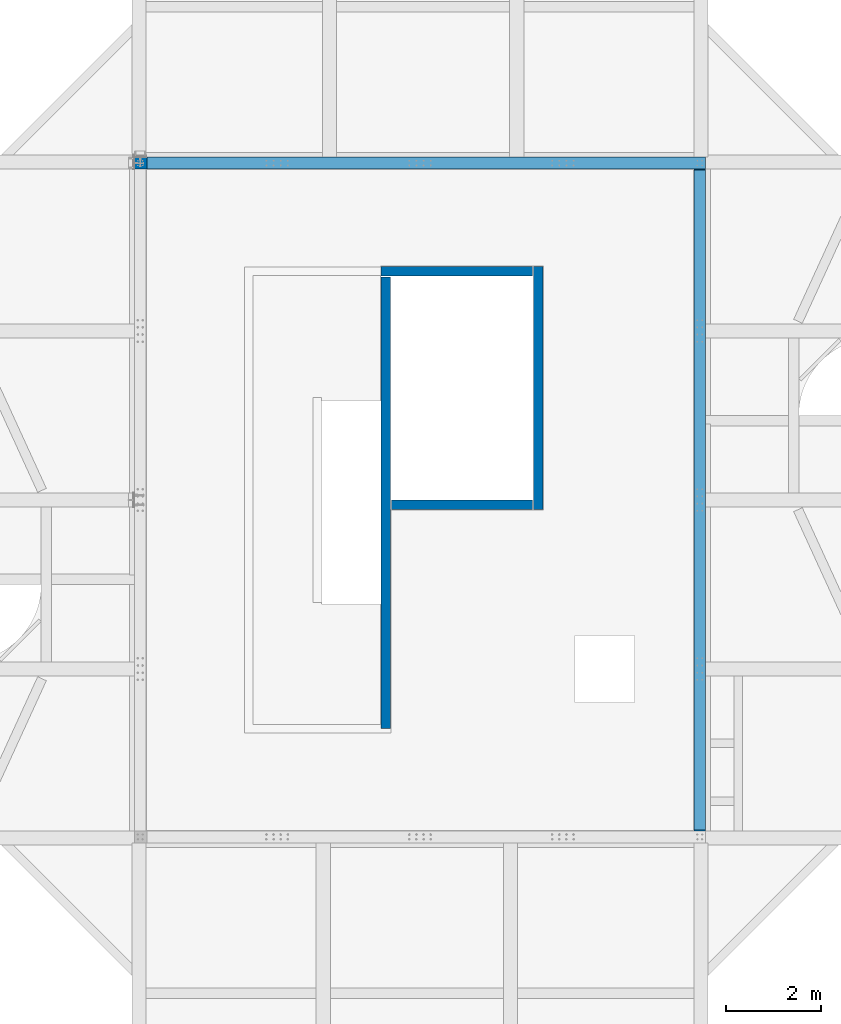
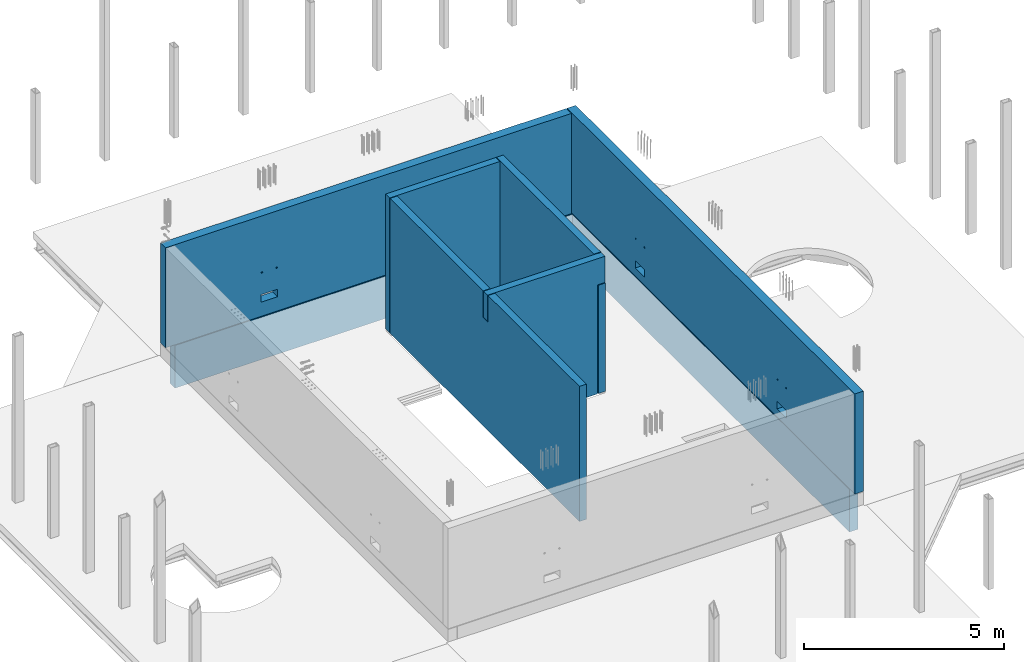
# One storey, part 11 of 16: 8 walls, 16 openings.
"""IFC2X3 building model written with IfcOpenShell, lengths in millimetres."""

from ifc_helpers import new_model, entity, si_unit, converted_unit, derived_unit, direction, frame, frame_2d, origin, origin_2d_with_axis, place, context, subcontext, project, spatial, rectangle, circle, extrude, material, layer, layer_set, layer_usage, type_object, element, save


model = new_model("IFC2X3")

# Units and contexts
model_context = context("Model", 3, precision=0.01, world=origin(), true_north=direction((6.12303176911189e-17, 1.0)))
body_context = subcontext(model_context, "Body", "Model", "MODEL_VIEW")
ifc_project = project(units=[si_unit("LENGTHUNIT", "METRE", prefix="MILLI"), si_unit("AREAUNIT", "SQUARE_METRE"), si_unit("VOLUMEUNIT", "CUBIC_METRE"), converted_unit("PLANEANGLEUNIT", "DEGREE", entity("IfcRatioMeasure", 0.0174532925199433), si_unit("PLANEANGLEUNIT", "RADIAN"), dimensions=[0, 0, 0, 0, 0, 0, 0]), si_unit("MASSUNIT", "GRAM", prefix="KILO"), derived_unit("MASSDENSITYUNIT", [(si_unit("MASSUNIT", "GRAM", prefix="KILO"), 1), (si_unit("LENGTHUNIT", "METRE"), -3)]), si_unit("TIMEUNIT", "SECOND"), si_unit("FREQUENCYUNIT", "HERTZ"), si_unit("THERMODYNAMICTEMPERATUREUNIT", "DEGREE_CELSIUS"), derived_unit("THERMALTRANSMITTANCEUNIT", [(si_unit("MASSUNIT", "GRAM", prefix="KILO"), 1), (si_unit("THERMODYNAMICTEMPERATUREUNIT", "KELVIN"), -1), (si_unit("TIMEUNIT", "SECOND"), -3)]), derived_unit("VOLUMETRICFLOWRATEUNIT", [(si_unit("LENGTHUNIT", "METRE"), 3), (si_unit("TIMEUNIT", "SECOND"), -1)]), si_unit("ELECTRICCURRENTUNIT", "AMPERE"), si_unit("ELECTRICVOLTAGEUNIT", "VOLT"), si_unit("POWERUNIT", "WATT"), si_unit("FORCEUNIT", "NEWTON", prefix="KILO"), si_unit("ILLUMINANCEUNIT", "LUX"), si_unit("LUMINOUSFLUXUNIT", "LUMEN"), si_unit("LUMINOUSINTENSITYUNIT", "CANDELA"), derived_unit("USERDEFINED", [(si_unit("MASSUNIT", "GRAM", prefix="KILO"), -1), (si_unit("LENGTHUNIT", "METRE"), -2), (si_unit("TIMEUNIT", "SECOND"), 3), (si_unit("LUMINOUSFLUXUNIT", "LUMEN"), 1)]), derived_unit("LINEARVELOCITYUNIT", [(si_unit("LENGTHUNIT", "METRE"), 1), (si_unit("TIMEUNIT", "SECOND"), -1)]), si_unit("PRESSUREUNIT", "PASCAL"), derived_unit("USERDEFINED", [(si_unit("LENGTHUNIT", "METRE"), -2), (si_unit("MASSUNIT", "GRAM", prefix="KILO"), 1), (si_unit("TIMEUNIT", "SECOND"), -2)])], contexts=[model_context])

# Site, building, storey
site_placement = place(None, origin())
site = spatial("IfcSite", under=ifc_project, at=site_placement, Name="Default", CompositionType="ELEMENT")
building_placement = place(site_placement, origin())
building = spatial("IfcBuilding", under=site, at=building_placement, Name="niet gebruiken", CompositionType="ELEMENT")
storey_placement = place(building_placement, frame((0.0, 0.0, 183150.0)))
storey = spatial("IfcBuildingStorey", under=building, at=storey_placement, Name="58 achtenvijftigste verdieping", CompositionType="ELEMENT", Elevation=183150.0)

# Wall, opening
ifc_material = material(Name="NLRS_f2_beton prefab")
ifc_layer_1 = layer(ifc_material, 200.0)
ifc_layer_set_1 = layer_set([ifc_layer_1], Name="Basic Wall:NLRS_22.21_WA_beton prefab d=200_gen")
ifc_layer_usage_1 = layer_usage(ifc_layer_set_1, "AXIS2", "NEGATIVE", 100.0)
wall_type_1 = type_object("IfcWallType", Name="Basic Wall:NLRS_22.21_WA_beton prefab d=200_gen", PredefinedType="STANDARD", material=ifc_layer_set_1)
wall_1_placement = place(storey_placement, frame((144230.0, 22400.0, 40.0), z_axis=(0.0, 0.0, 1.0), x_axis=(0.0, -1.0, 0.0)))
wall_1 = element("IfcWallStandardCase", 1, at=wall_1_placement, inside=storey, type_object=wall_type_1, material=ifc_layer_usage_1, Name="Basic Wall:NLRS_22.21_WA_beton prefab d=200_gen", ObjectType="Basic Wall:NLRS_22.21_WA_beton prefab d=200_gen", context=body_context, shape_type="SweptSolid", body=[
    extrude(rectangle(XDim=5100.0, YDim=199.999999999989, at=frame_2d((2550.0, 3.96482846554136e-12), x_axis=(-1.0, 0.0))), origin(), (0.0, 0.0, 1.0), 4130.0),
])
opening_1_placement = place(wall_1_placement, origin())
element("IfcOpeningElement", 2, at=opening_1_placement, cuts=wall_1, Name="Basic Wall:NLRS_22.21_WA_beton prefab d=200_gen", ObjectType="Opening", context=body_context, shape_type="SweptSolid", body=[
    extrude(rectangle(XDim=819.999999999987, YDim=220.000000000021, at=frame_2d((1.73372427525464e-11, 1.08002495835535e-12), x_axis=(1.0, 0.0))), frame((4990.0, -100.0, 3720.0), z_axis=(0.0, 1.0, 0.0), x_axis=(0.0, 0.0, -1.0)), (0.0, 0.0, 1.0), 199.999999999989),
])

ifc_layer_usage_2 = layer_usage(ifc_layer_set_1, "AXIS2", "NEGATIVE", 100.0)
wall_2_placement = place(storey_placement, frame((141030.0, 22180.0, 40.0), z_axis=(0.0, 0.0, 1.0), x_axis=(0.0, -1.0, 0.0)))
wall_2 = element("IfcWallStandardCase", 3, at=wall_2_placement, inside=storey, type_object=wall_type_1, material=ifc_layer_usage_2, Name="Basic Wall:NLRS_22.21_WA_beton prefab d=200_gen", ObjectType="Basic Wall:NLRS_22.21_WA_beton prefab d=200_gen", context=body_context, shape_type="SweptSolid", body=[
    extrude(rectangle(XDim=9479.99999999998, YDim=199.999999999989, at=frame_2d((4739.99999999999, 7.8159700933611e-14), x_axis=(-1.0, 0.0))), origin(), (0.0, 0.0, 1.0), 4130.0),
])
opening_2_placement = place(wall_2_placement, origin())
element("IfcOpeningElement", 4, at=opening_2_placement, cuts=wall_2, Name="Basic Wall:NLRS_22.21_WA_beton prefab d=200_gen", ObjectType="Opening", context=body_context, shape_type="SweptSolid", body=[
    extrude(rectangle(XDim=819.999999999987, YDim=240.0, at=frame_2d((1.73372427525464e-11, -1.08713038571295e-12), x_axis=(1.0, 0.0))), frame((4780.0, -100.0, 3720.0), z_axis=(0.0, 1.0, 0.0), x_axis=(0.0, 0.0, -1.0)), (0.0, 0.0, 1.0), 199.999999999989),
])

# Wall
ifc_layer_usage_3 = layer_usage(ifc_layer_set_1, "AXIS2", "NEGATIVE", 100.0)
wall_3_placement = place(storey_placement, frame((140930.0, 22300.0, 40.0)))
element("IfcWallStandardCase", 5, at=wall_3_placement, inside=storey, type_object=wall_type_1, material=ifc_layer_usage_3, Name="Basic Wall:NLRS_22.21_WA_beton prefab d=200_gen", ObjectType="Basic Wall:NLRS_22.21_WA_beton prefab d=200_gen", context=body_context, shape_type="SweptSolid", body=[
    extrude(rectangle(XDim=3180.0, YDim=199.999999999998, at=frame_2d((1590.0, -1.01607611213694e-12), x_axis=(-1.0, 0.0))), origin(), (0.0, 0.0, 1.0), 4130.0),
])

# Wall, openings
ifc_layer_usage_4 = layer_usage(ifc_layer_set_1, "AXIS2", "NEGATIVE", 100.0)
wall_4_placement = place(storey_placement, frame((140930.0, 17400.0, 40.0)))
wall_4 = element("IfcWallStandardCase", 6, at=wall_4_placement, inside=storey, type_object=wall_type_1, material=ifc_layer_usage_4, Name="Basic Wall:NLRS_22.21_WA_beton prefab d=200_gen", ObjectType="Basic Wall:NLRS_22.21_WA_beton prefab d=200_gen", context=body_context, shape_type="SweptSolid", body=[
    extrude(rectangle(XDim=3390.00000000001, YDim=199.999999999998, at=frame_2d((1695.0, 4.33431068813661e-13), x_axis=(-1.0, 0.0))), origin(), (0.0, 0.0, 1.0), 4129.99999999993),
])
opening_3_placement = place(wall_4_placement, origin())
element("IfcOpeningElement", 7, at=opening_3_placement, cuts=wall_4, Name="Basic Wall:NLRS_22.21_WA_beton prefab d=200_gen", ObjectType="Opening", context=body_context, shape_type="SweptSolid", body=[
    extrude(rectangle(XDim=3329.99999999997, YDim=220.000000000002, at=frame_2d((0.0, 8.66862137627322e-12), x_axis=(1.0, 0.0))), frame((110.0, -100.0, 1665.0), z_axis=(0.0, 1.0, 0.0), x_axis=(0.0, 0.0, -1.0)), (0.0, 0.0, 1.0), 200.000000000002),
])
opening_4_placement = place(wall_4_placement, origin())
element("IfcOpeningElement", 8, at=opening_4_placement, cuts=wall_4, Name="Basic Wall:NLRS_22.21_WA_beton prefab d=200_gen", ObjectType="Opening", context=body_context, shape_type="SweptSolid", body=[
    extrude(rectangle(XDim=3329.99999999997, YDim=209.999999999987, at=origin_2d_with_axis()), frame((3285.0, -100.0, 1665.0), z_axis=(0.0, 1.0, 0.0), x_axis=(0.0, 0.0, -1.0)), (0.0, 0.0, 1.0), 199.999999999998),
])

ifc_layer_2 = layer(ifc_material, 250.0)
ifc_layer_set_2 = layer_set([ifc_layer_2], Name="Basic Wall:NLRS_22.21_WA_beton prefab d=250_gen")
ifc_layer_usage_5 = layer_usage(ifc_layer_set_2, "AXIS2", "NEGATIVE", 125.0)
wall_type_2 = type_object("IfcWallType", Name="Basic Wall:NLRS_22.21_WA_beton prefab d=250_gen", PredefinedType="STANDARD", material=ifc_layer_set_2)
wall_5_placement = place(storey_placement, frame((135750.0, 24575.0, 35.0)))
wall_5 = element("IfcWallStandardCase", 9, at=wall_5_placement, inside=storey, type_object=wall_type_2, material=ifc_layer_usage_5, Name="Basic Wall:NLRS_22.21_WA_beton prefab d=250_gen", ObjectType="Basic Wall:NLRS_22.21_WA_beton prefab d=250_gen", context=body_context, shape_type="SweptSolid", body=[
    extrude(rectangle(XDim=11729.9999999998, YDim=250.000000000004, at=frame_2d((5864.99999999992, 0.0), x_axis=(-1.0, 0.0))), origin(), (0.0, 0.0, 1.0), 3059.99999999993),
])
opening_5_placement = place(wall_5_placement, origin())
element("IfcOpeningElement", 10, at=opening_5_placement, cuts=wall_5, Name="Basic Wall:NLRS_22.21_WA_beton prefab d=250_gen", ObjectType="Opening", context=body_context, shape_type="SweptSolid", body=[
    extrude(rectangle(XDim=230.000000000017, YDim=469.999999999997, at=frame_2d((1.73230318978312e-11, 0.0), x_axis=(1.0, 0.0))), frame((9000.03407201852, -125.0, 545.0), z_axis=(0.0, 1.0, 0.0), x_axis=(0.0, 0.0, -1.0)), (0.0, 0.0, 1.0), 249.999999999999),
])
opening_6_placement = place(wall_5_placement, origin())
element("IfcOpeningElement", 11, at=opening_6_placement, cuts=wall_5, Name="Basic Wall:NLRS_22.21_WA_beton prefab d=250_gen", ObjectType="Opening", context=body_context, shape_type="SweptSolid", body=[
    extrude(rectangle(XDim=230.000000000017, YDim=469.999999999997, at=frame_2d((1.73230318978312e-11, 0.0), x_axis=(1.0, 0.0))), frame((3000.03407201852, -125.0, 545.0), z_axis=(0.0, 1.0, 0.0), x_axis=(0.0, 0.0, -1.0)), (0.0, 0.0, 1.0), 249.999999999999),
])
opening_7_placement = place(wall_5_placement, origin())
element("IfcOpeningElement", 12, at=opening_7_placement, cuts=wall_5, Name="Basic Wall:NLRS_22.21_WA_beton prefab d=250_gen", ObjectType="Opening", context=body_context, shape_type="SweptSolid", body=[
    extrude(circle(Radius=25.0, at=origin_2d_with_axis()), frame((2785.0352180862, -300.0, 1330.00694824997), z_axis=(-3.81500000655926e-06, 1.0, 0.0), x_axis=(1.0, 3.81500000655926e-06, 0.0)), (0.0, 0.0, 1.0), 600.000000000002),
])
opening_8_placement = place(wall_5_placement, origin())
element("IfcOpeningElement", 13, at=opening_8_placement, cuts=wall_5, Name="Basic Wall:NLRS_22.21_WA_beton prefab d=250_gen", ObjectType="Opening", context=body_context, shape_type="SweptSolid", body=[
    extrude(circle(Radius=25.0, at=origin_2d_with_axis()), frame((3215.03426433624, -300.0, 1330.00694824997), z_axis=(-3.81500000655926e-06, 1.0, 0.0), x_axis=(1.0, 3.81500000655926e-06, 0.0)), (0.0, 0.0, 1.0), 600.000000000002),
])
opening_9_placement = place(wall_5_placement, origin())
element("IfcOpeningElement", 14, at=opening_9_placement, cuts=wall_5, Name="Basic Wall:NLRS_22.21_WA_beton prefab d=250_gen", ObjectType="Opening", context=body_context, shape_type="SweptSolid", body=[
    extrude(circle(Radius=25.0, at=origin_2d_with_axis()), frame((9215.03521808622, -300.0, 1330.00694824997), z_axis=(-3.81500000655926e-06, 1.0, 0.0), x_axis=(1.0, 3.81500000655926e-06, 0.0)), (0.0, 0.0, 1.0), 600.000000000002),
])
opening_10_placement = place(wall_5_placement, origin())
element("IfcOpeningElement", 15, at=opening_10_placement, cuts=wall_5, Name="Basic Wall:NLRS_22.21_WA_beton prefab d=250_gen", ObjectType="Opening", context=body_context, shape_type="SweptSolid", body=[
    extrude(circle(Radius=25.0, at=origin_2d_with_axis()), frame((8785.03521808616, -300.0, 1330.00694824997), z_axis=(-3.81500000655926e-06, 1.0, 0.0), x_axis=(1.0, 3.81500000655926e-06, 0.0)), (0.0, 0.0, 1.0), 600.000000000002),
])

ifc_layer_usage_6 = layer_usage(ifc_layer_set_2, "AXIS2", "NEGATIVE", 125.0)
wall_6_placement = place(storey_placement, frame((147625.0, 24700.0, 35.0), z_axis=(0.0, 0.0, 1.0), x_axis=(0.0, -1.0, 0.0)))
wall_6 = element("IfcWallStandardCase", 16, at=wall_6_placement, inside=storey, type_object=wall_type_2, material=ifc_layer_usage_6, Name="Basic Wall:NLRS_22.21_WA_beton prefab d=250_gen", ObjectType="Basic Wall:NLRS_22.21_WA_beton prefab d=250_gen", context=body_context, shape_type="SweptSolid", body=[
    extrude(rectangle(XDim=14399.9999999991, YDim=250.000000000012, at=frame_2d((7199.99999999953, 3.12638803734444e-13), x_axis=(-1.0, 0.0))), origin(), (0.0, 0.0, 1.0), 3059.99999999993),
])
opening_11_placement = place(wall_6_placement, origin())
element("IfcOpeningElement", 17, at=opening_11_placement, cuts=wall_6, Name="Basic Wall:NLRS_22.21_WA_beton prefab d=250_gen", ObjectType="Opening", context=body_context, shape_type="SweptSolid", body=[
    extrude(rectangle(XDim=230.000000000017, YDim=470.000000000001, at=frame_2d((1.73230318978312e-11, 0.0), x_axis=(1.0, 0.0))), frame((3650.0000499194, -125.0, 365.0), z_axis=(0.0, 1.0, 0.0), x_axis=(0.0, 0.0, -1.0)), (0.0, 0.0, 1.0), 250.000000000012),
])
opening_12_placement = place(wall_6_placement, origin())
element("IfcOpeningElement", 18, at=opening_12_placement, cuts=wall_6, Name="Basic Wall:NLRS_22.21_WA_beton prefab d=250_gen", ObjectType="Opening", context=body_context, shape_type="SweptSolid", body=[
    extrude(rectangle(XDim=230.000000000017, YDim=470.000000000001, at=frame_2d((1.73230318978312e-11, 0.0), x_axis=(1.0, 0.0))), frame((10750.0000499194, -125.0, 365.0), z_axis=(0.0, 1.0, 0.0), x_axis=(0.0, 0.0, -1.0)), (0.0, 0.0, 1.0), 250.000000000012),
])
opening_13_placement = place(wall_6_placement, origin())
element("IfcOpeningElement", 19, at=opening_13_placement, cuts=wall_6, Name="Basic Wall:NLRS_22.21_WA_beton prefab d=250_gen", ObjectType="Opening", context=body_context, shape_type="SweptSolid", body=[
    extrude(circle(Radius=25.0, at=origin_2d_with_axis()), frame((3865.00233916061, -299.996757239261, 1149.99694824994), z_axis=(-3.81500000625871e-06, 1.0, 0.0), x_axis=(1.0, 3.81500000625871e-06, 0.0)), (0.0, 0.0, 1.0), 600.000000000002),
])
opening_14_placement = place(wall_6_placement, origin())
element("IfcOpeningElement", 20, at=opening_14_placement, cuts=wall_6, Name="Basic Wall:NLRS_22.21_WA_beton prefab d=250_gen", ObjectType="Opening", context=body_context, shape_type="SweptSolid", body=[
    extrude(circle(Radius=25.0, at=origin_2d_with_axis()), frame((3435.00329291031, -299.996757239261, 1149.99694824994), z_axis=(-3.81500000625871e-06, 1.0, 0.0), x_axis=(1.0, 3.81500000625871e-06, 0.0)), (0.0, 0.0, 1.0), 600.000000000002),
])
opening_15_placement = place(wall_6_placement, origin())
element("IfcOpeningElement", 21, at=opening_15_placement, cuts=wall_6, Name="Basic Wall:NLRS_22.21_WA_beton prefab d=250_gen", ObjectType="Opening", context=body_context, shape_type="SweptSolid", body=[
    extrude(circle(Radius=25.0, at=origin_2d_with_axis()), frame((10535.0032929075, -299.996757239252, 1149.99694824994), z_axis=(-3.81500000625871e-06, 1.0, 0.0), x_axis=(1.0, 3.81500000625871e-06, 0.0)), (0.0, 0.0, 1.0), 600.000000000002),
])
opening_16_placement = place(wall_6_placement, origin())
element("IfcOpeningElement", 22, at=opening_16_placement, cuts=wall_6, Name="Basic Wall:NLRS_22.21_WA_beton prefab d=250_gen", ObjectType="Opening", context=body_context, shape_type="SweptSolid", body=[
    extrude(circle(Radius=25.0, at=origin_2d_with_axis()), frame((10965.0032929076, -299.996757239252, 1149.99694824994), z_axis=(-3.81500000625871e-06, 1.0, 0.0), x_axis=(1.0, 3.81500000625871e-06, 0.0)), (0.0, 0.0, 1.0), 600.000000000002),
])

# Walls
ifc_layer_usage_7 = layer_usage(ifc_layer_set_2, "AXIS2", "NEGATIVE", 125.0)
wall_7_placement = place(storey_placement, frame((136020.0, 24575.0, -1290.0)))
element("IfcWallStandardCase", 23, at=wall_7_placement, inside=storey, type_object=wall_type_2, material=ifc_layer_usage_7, Name="Basic Wall:NLRS_22.21_WA_beton prefab d=250_gen", ObjectType="Basic Wall:NLRS_22.21_WA_beton prefab d=250_gen", context=body_context, shape_type="SweptSolid", body=[
    extrude(rectangle(XDim=11730.0000000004, YDim=250.000000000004, at=frame_2d((5865.00000000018, 0.0), x_axis=(-1.0, 0.0))), origin(), (0.0, 0.0, 1.0), 1305.0),
])
ifc_layer_usage_8 = layer_usage(ifc_layer_set_2, "AXIS2", "NEGATIVE", 125.0)
wall_8_placement = place(storey_placement, frame((147625.0, 24430.0, -1290.0), z_axis=(0.0, 0.0, 1.0), x_axis=(0.0, -1.0, 0.0)))
element("IfcWallStandardCase", 24, at=wall_8_placement, inside=storey, type_object=wall_type_2, material=ifc_layer_usage_8, Name="Basic Wall:NLRS_22.21_WA_beton prefab d=250_gen", ObjectType="Basic Wall:NLRS_22.21_WA_beton prefab d=250_gen", context=body_context, shape_type="SweptSolid", body=[
    extrude(rectangle(XDim=13860.0, YDim=250.000000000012, at=frame_2d((6930.0, 0.0), x_axis=(-1.0, 0.0))), origin(), (0.0, 0.0, 1.0), 1305.0),
])

save(model, "model.ifc")
